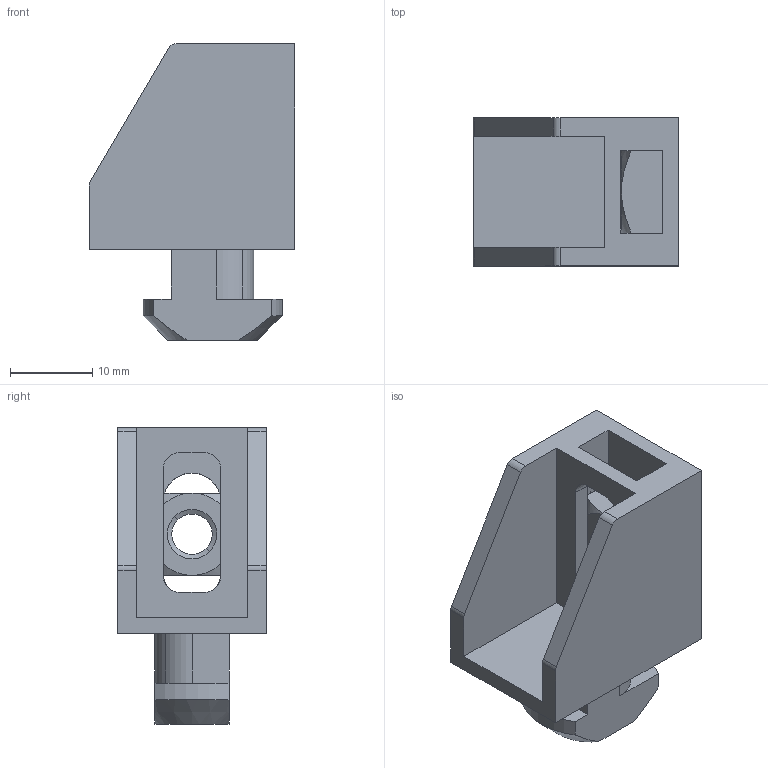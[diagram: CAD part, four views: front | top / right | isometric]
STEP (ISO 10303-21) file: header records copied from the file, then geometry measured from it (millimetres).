
FILE_DESCRIPTION (( 'STEP AP203' ), '1' );
FILE_NAME ('0110UB10.STEP', '2024-09-06T08:36:03', ( 'Windows-Benutzer' ), ( '' ), 'SwSTEP 2.0', 'SolidWorks 2024', '' );
FILE_SCHEMA (( 'CONFIG_CONTROL_DESIGN' ));
Length unit declared in the file: millimetre
Products named in the file (1): 0110UB10
Bounding box: 25 x 18 x 36 mm (x, y, z)
Volume: 5812.8 mm3; surface area: 4594.9 mm2
Topology: 1 solids, 1 shells, 74 faces, 199 edges, 128 vertices
Faces by surface type: plane 39, cylinder 23, cone 12
Entity records: 2420 total; most frequent: CARTESIAN_POINT 446, DIRECTION 401, ORIENTED_EDGE 398, EDGE_CURVE 199, AXIS2_PLACEMENT_3D 139, VERTEX_POINT 128, LINE 123, VECTOR 123
